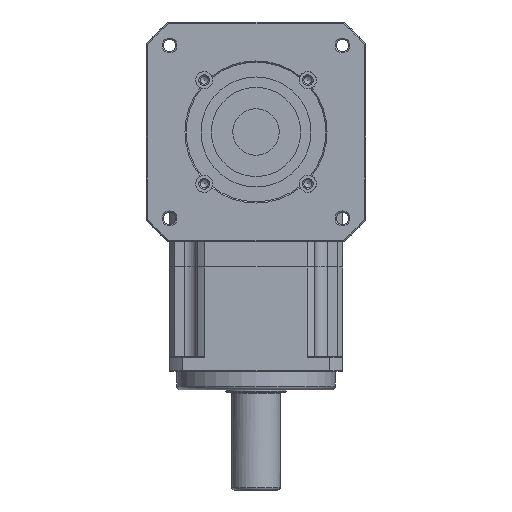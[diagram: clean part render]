
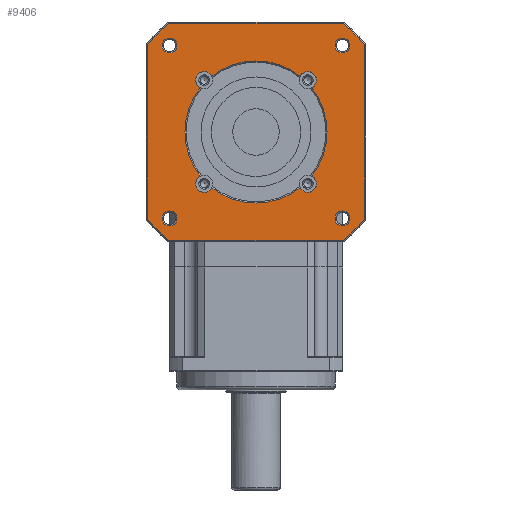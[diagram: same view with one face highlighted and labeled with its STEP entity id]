
A CAD part, front view. The second image highlights one B-rep face of the part: STEP entity #9406.
In plain terms, the highlighted planar face has unit normal (0, -1, 0).
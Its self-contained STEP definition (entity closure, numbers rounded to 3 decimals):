
#9209=CARTESIAN_POINT('',(64.658,-156.,281.711));
#9210=VERTEX_POINT('',#9209);
#9211=CARTESIAN_POINT('',(70.711,-156.,281.711));
#9212=DIRECTION('',(0.0,-1.0,0.0));
#9213=DIRECTION('',(1.0,0.0,0.0));
#9214=AXIS2_PLACEMENT_3D('',#9211,#9212,#9213);
#9215=CIRCLE('',#9214,6.053);
#9216=EDGE_CURVE('',#9210,#9210,#9215,.T.);
#9221=CARTESIAN_POINT('',(0.,-156.,211.));
#9222=DIRECTION('',(0.0,1.0,0.0));
#9223=DIRECTION('',(1.0,0.0,0.0));
#9224=AXIS2_PLACEMENT_3D('',#9221,#9222,#9223);
#9225=PLANE('',#9224);
#9226=CARTESIAN_POINT('',(-71.239,-156.,300.));
#9227=VERTEX_POINT('',#9226);
#9228=CARTESIAN_POINT('',(71.239,-156.,300.));
#9229=VERTEX_POINT('',#9228);
#9230=CARTESIAN_POINT('',(-71.239,-156.,300.));
#9231=DIRECTION('',(1.0,0.0,0.0));
#9232=VECTOR('',#9231,142.478);
#9233=LINE('',#9230,#9232);
#9234=EDGE_CURVE('',#9227,#9229,#9233,.T.);
#9235=ORIENTED_EDGE('',*,*,#9234,.F.);
#9236=CARTESIAN_POINT('',(-89.,-156.,282.239));
#9237=VERTEX_POINT('',#9236);
#9238=CARTESIAN_POINT('',(0.,-156.,211.));
#9239=DIRECTION('',(0.0,1.0,0.0));
#9240=DIRECTION('',(-1.0,0.0,0.0));
#9241=AXIS2_PLACEMENT_3D('',#9238,#9239,#9240);
#9242=CIRCLE('',#9241,114.0);
#9243=EDGE_CURVE('',#9237,#9227,#9242,.T.);
#9244=ORIENTED_EDGE('',*,*,#9243,.F.);
#9245=CARTESIAN_POINT('',(-89.,-156.,139.761));
#9246=VERTEX_POINT('',#9245);
#9247=CARTESIAN_POINT('',(-89.,-156.,139.761));
#9248=DIRECTION('',(0.0,0.0,1.0));
#9249=VECTOR('',#9248,142.478);
#9250=LINE('',#9247,#9249);
#9251=EDGE_CURVE('',#9246,#9237,#9250,.T.);
#9252=ORIENTED_EDGE('',*,*,#9251,.F.);
#9253=CARTESIAN_POINT('',(-71.239,-156.,122.));
#9254=VERTEX_POINT('',#9253);
#9255=CARTESIAN_POINT('',(0.,-156.,211.));
#9256=DIRECTION('',(0.0,1.0,0.0));
#9257=DIRECTION('',(-1.0,0.0,0.0));
#9258=AXIS2_PLACEMENT_3D('',#9255,#9256,#9257);
#9259=CIRCLE('',#9258,114.0);
#9260=EDGE_CURVE('',#9254,#9246,#9259,.T.);
#9261=ORIENTED_EDGE('',*,*,#9260,.F.);
#9262=CARTESIAN_POINT('',(71.239,-156.,122.));
#9263=VERTEX_POINT('',#9262);
#9264=CARTESIAN_POINT('',(71.239,-156.,122.));
#9265=DIRECTION('',(-1.0,0.0,0.0));
#9266=VECTOR('',#9265,142.478);
#9267=LINE('',#9264,#9266);
#9268=EDGE_CURVE('',#9263,#9254,#9267,.T.);
#9269=ORIENTED_EDGE('',*,*,#9268,.F.);
#9270=CARTESIAN_POINT('',(89.,-156.,139.761));
#9271=VERTEX_POINT('',#9270);
#9272=CARTESIAN_POINT('',(0.,-156.,211.));
#9273=DIRECTION('',(0.0,1.0,0.0));
#9274=DIRECTION('',(1.0,0.0,0.0));
#9275=AXIS2_PLACEMENT_3D('',#9272,#9273,#9274);
#9276=CIRCLE('',#9275,114.0);
#9277=EDGE_CURVE('',#9271,#9263,#9276,.T.);
#9278=ORIENTED_EDGE('',*,*,#9277,.F.);
#9279=CARTESIAN_POINT('',(89.,-156.,282.239));
#9280=VERTEX_POINT('',#9279);
#9281=CARTESIAN_POINT('',(89.,-156.,282.239));
#9282=DIRECTION('',(0.0,0.0,-1.0));
#9283=VECTOR('',#9282,142.478);
#9284=LINE('',#9281,#9283);
#9285=EDGE_CURVE('',#9280,#9271,#9284,.T.);
#9286=ORIENTED_EDGE('',*,*,#9285,.F.);
#9287=CARTESIAN_POINT('',(0.,-156.,211.));
#9288=DIRECTION('',(0.0,1.0,0.0));
#9289=DIRECTION('',(1.0,0.0,0.0));
#9290=AXIS2_PLACEMENT_3D('',#9287,#9288,#9289);
#9291=CIRCLE('',#9290,114.0);
#9292=EDGE_CURVE('',#9229,#9280,#9291,.T.);
#9293=ORIENTED_EDGE('',*,*,#9292,.F.);
#9294=EDGE_LOOP('',(#9235,#9244,#9252,#9261,#9269,#9278,#9286,#9293));
#9295=FACE_OUTER_BOUND('',#9294,.T.);
#9296=CARTESIAN_POINT('',(-76.764,-156.,281.711));
#9297=VERTEX_POINT('',#9296);
#9298=CARTESIAN_POINT('',(-70.711,-156.,281.711));
#9299=DIRECTION('',(0.0,-1.0,0.0));
#9300=DIRECTION('',(1.0,0.0,0.0));
#9301=AXIS2_PLACEMENT_3D('',#9298,#9299,#9300);
#9302=CIRCLE('',#9301,6.053);
#9303=EDGE_CURVE('',#9297,#9297,#9302,.T.);
#9304=ORIENTED_EDGE('',*,*,#9303,.F.);
#9305=EDGE_LOOP('',(#9304));
#9306=FACE_BOUND('',#9305,.T.);
#9307=CARTESIAN_POINT('',(64.658,-156.,140.289));
#9308=VERTEX_POINT('',#9307);
#9309=CARTESIAN_POINT('',(70.711,-156.,140.289));
#9310=DIRECTION('',(0.0,-1.0,0.0));
#9311=DIRECTION('',(1.0,0.0,0.0));
#9312=AXIS2_PLACEMENT_3D('',#9309,#9310,#9311);
#9313=CIRCLE('',#9312,6.053);
#9314=EDGE_CURVE('',#9308,#9308,#9313,.T.);
#9315=ORIENTED_EDGE('',*,*,#9314,.F.);
#9316=EDGE_LOOP('',(#9315));
#9317=FACE_BOUND('',#9316,.T.);
#9318=CARTESIAN_POINT('',(-45.542,-156.,247.158));
#9319=VERTEX_POINT('',#9318);
#9320=CARTESIAN_POINT('',(-45.542,-156.,174.842));
#9321=VERTEX_POINT('',#9320);
#9322=CARTESIAN_POINT('',(0.,-156.,211.));
#9323=DIRECTION('',(0.0,-1.0,0.0));
#9324=DIRECTION('',(-1.0,0.0,0.0));
#9325=AXIS2_PLACEMENT_3D('',#9322,#9323,#9324);
#9326=CIRCLE('',#9325,58.15);
#9327=EDGE_CURVE('',#9319,#9321,#9326,.T.);
#9328=ORIENTED_EDGE('',*,*,#9327,.F.);
#9329=CARTESIAN_POINT('',(-36.158,-156.,256.542));
#9330=VERTEX_POINT('',#9329);
#9331=CARTESIAN_POINT('',(-42.426,-156.,253.426));
#9332=DIRECTION('',(0.0,1.0,0.0));
#9333=DIRECTION('',(-1.0,0.0,0.0));
#9334=AXIS2_PLACEMENT_3D('',#9331,#9332,#9333);
#9335=CIRCLE('',#9334,7.);
#9336=EDGE_CURVE('',#9319,#9330,#9335,.T.);
#9337=ORIENTED_EDGE('',*,*,#9336,.T.);
#9338=CARTESIAN_POINT('',(36.158,-156.,256.542));
#9339=VERTEX_POINT('',#9338);
#9340=CARTESIAN_POINT('',(0.,-156.,211.));
#9341=DIRECTION('',(0.0,-1.0,0.0));
#9342=DIRECTION('',(1.0,0.0,0.0));
#9343=AXIS2_PLACEMENT_3D('',#9340,#9341,#9342);
#9344=CIRCLE('',#9343,58.15);
#9345=EDGE_CURVE('',#9339,#9330,#9344,.T.);
#9346=ORIENTED_EDGE('',*,*,#9345,.F.);
#9347=CARTESIAN_POINT('',(45.542,-156.,247.158));
#9348=VERTEX_POINT('',#9347);
#9349=CARTESIAN_POINT('',(42.426,-156.,253.426));
#9350=DIRECTION('',(0.0,1.0,0.0));
#9351=DIRECTION('',(-1.0,0.0,0.0));
#9352=AXIS2_PLACEMENT_3D('',#9349,#9350,#9351);
#9353=CIRCLE('',#9352,7.);
#9354=EDGE_CURVE('',#9339,#9348,#9353,.T.);
#9355=ORIENTED_EDGE('',*,*,#9354,.T.);
#9356=CARTESIAN_POINT('',(45.542,-156.,174.842));
#9357=VERTEX_POINT('',#9356);
#9358=CARTESIAN_POINT('',(0.,-156.,211.));
#9359=DIRECTION('',(0.0,-1.0,0.0));
#9360=DIRECTION('',(1.0,0.0,0.0));
#9361=AXIS2_PLACEMENT_3D('',#9358,#9359,#9360);
#9362=CIRCLE('',#9361,58.15);
#9363=EDGE_CURVE('',#9357,#9348,#9362,.T.);
#9364=ORIENTED_EDGE('',*,*,#9363,.F.);
#9365=CARTESIAN_POINT('',(36.158,-156.,165.458));
#9366=VERTEX_POINT('',#9365);
#9367=CARTESIAN_POINT('',(42.426,-156.,168.574));
#9368=DIRECTION('',(0.0,1.0,0.0));
#9369=DIRECTION('',(-1.0,0.0,0.0));
#9370=AXIS2_PLACEMENT_3D('',#9367,#9368,#9369);
#9371=CIRCLE('',#9370,7.);
#9372=EDGE_CURVE('',#9357,#9366,#9371,.T.);
#9373=ORIENTED_EDGE('',*,*,#9372,.T.);
#9374=CARTESIAN_POINT('',(-36.158,-156.,165.458));
#9375=VERTEX_POINT('',#9374);
#9376=CARTESIAN_POINT('',(0.,-156.,211.));
#9377=DIRECTION('',(0.0,-1.0,0.0));
#9378=DIRECTION('',(1.0,0.0,0.0));
#9379=AXIS2_PLACEMENT_3D('',#9376,#9377,#9378);
#9380=CIRCLE('',#9379,58.15);
#9381=EDGE_CURVE('',#9375,#9366,#9380,.T.);
#9382=ORIENTED_EDGE('',*,*,#9381,.F.);
#9383=CARTESIAN_POINT('',(-42.426,-156.,168.574));
#9384=DIRECTION('',(0.0,1.0,0.0));
#9385=DIRECTION('',(-1.0,0.0,0.0));
#9386=AXIS2_PLACEMENT_3D('',#9383,#9384,#9385);
#9387=CIRCLE('',#9386,7.);
#9388=EDGE_CURVE('',#9375,#9321,#9387,.T.);
#9389=ORIENTED_EDGE('',*,*,#9388,.T.);
#9390=EDGE_LOOP('',(#9328,#9337,#9346,#9355,#9364,#9373,#9382,#9389));
#9391=FACE_BOUND('',#9390,.T.);
#9392=CARTESIAN_POINT('',(-76.764,-156.,140.289));
#9393=VERTEX_POINT('',#9392);
#9394=CARTESIAN_POINT('',(-70.711,-156.,140.289));
#9395=DIRECTION('',(0.0,-1.0,0.0));
#9396=DIRECTION('',(1.0,0.0,0.0));
#9397=AXIS2_PLACEMENT_3D('',#9394,#9395,#9396);
#9398=CIRCLE('',#9397,6.053);
#9399=EDGE_CURVE('',#9393,#9393,#9398,.T.);
#9400=ORIENTED_EDGE('',*,*,#9399,.F.);
#9401=EDGE_LOOP('',(#9400));
#9402=FACE_BOUND('',#9401,.T.);
#9403=ORIENTED_EDGE('',*,*,#9216,.F.);
#9404=EDGE_LOOP('',(#9403));
#9405=FACE_BOUND('',#9404,.T.);
#9406=ADVANCED_FACE('',(#9295,#9306,#9317,#9391,#9402,#9405),#9225,.F.);
